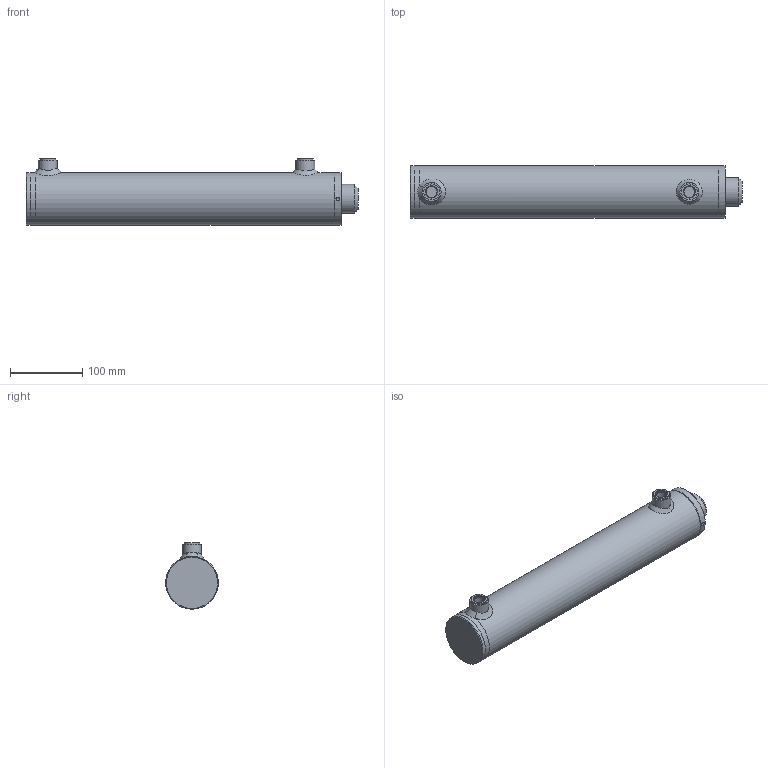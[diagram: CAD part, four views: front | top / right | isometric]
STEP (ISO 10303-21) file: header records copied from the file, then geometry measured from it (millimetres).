
FILE_DESCRIPTION( ( 'Unknown' ), '1' );
FILE_NAME( 'E:/LIBRERIA_3d/CILINDRI/HM0/HM0063400300.stp', 'Unknown', ( 'Unknown' ), ( 'Unknown' ), 'PSStep 17.0.49', 'Unknown', ' ' );
FILE_SCHEMA( ( 'AUTOMOTIVE_DESIGN { 1 0 10303 214 1 1 1 1 }' ) );
Length unit declared in the file: millimetre
Products named in the file (18): CT00063024; CG07306340; STL0630730300-oa4; Saldatura d'angolo 1-oa2; CBS0600000; MAT_PRIMA_TUBO_FT07306300-oa3; Assem1; Saldatura con preparazione 1-oa0; Saldatura d'angolo 1-oa1; CF00063073; CDA0002420; APG0600000; SBL0400630300
Assembly tree (15 placements, depth 3):
  Saldatura d'angolo 1-oa2
  Saldatura d'angolo 1-oa2
  Assem1
    Saldatura con preparazione 1-oa0
    Saldatura con preparazione 1-oa0
    CBS0600000
    CF00063073
    CDA0002420
    APG0600000  x2
    SBL0400630300
    CG07306340
      CG07306340
    CT00063024
      CT00063024
    STL0630730300-oa4
      CBS0600000
      MAT_PRIMA_TUBO_FT07306300-oa3
  Saldatura d'angolo 1-oa1
  Saldatura d'angolo 1-oa1
Bounding box: 460 x 73 x 92 mm (x, y, z)
Volume: 1209783.9 mm3; surface area: 320445.4 mm2
Topology: 16 solids, 16 shells, 202 faces, 410 edges, 253 vertices
Faces by surface type: plane 58, cylinder 55, torus 38, cone 33, bspline 18
Full cylindrical faces by diameter (mm): 4.25 x1, 5 x2, 6 x2, 7 x2, 14.95 x2, 16 x2, 16.6 x2, 22 x2, 23.4 x1, 24 x5, 26 x2, 28.5 x1, 36 x1, 40 x4, 42 x1, 43 x1, 47 x1, 48 x1, 48.6 x1, 58 x1, 58.39 x2, 61.63 x2, 62.9 x1, 63 x1, 63.8 x1, 64 x1, 64.1 x1, 65 x4, 66.376 x1, 68 x1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
Entity records: 8380 total; most frequent: CARTESIAN_POINT 3645, DIRECTION 714, ORIENTED_EDGE 434, AXIS2_PLACEMENT_3D 345, EDGE_LOOP 344, FACE_OUTER_BOUND 277, EDGE_CURVE 217, VERTEX_POINT 196
